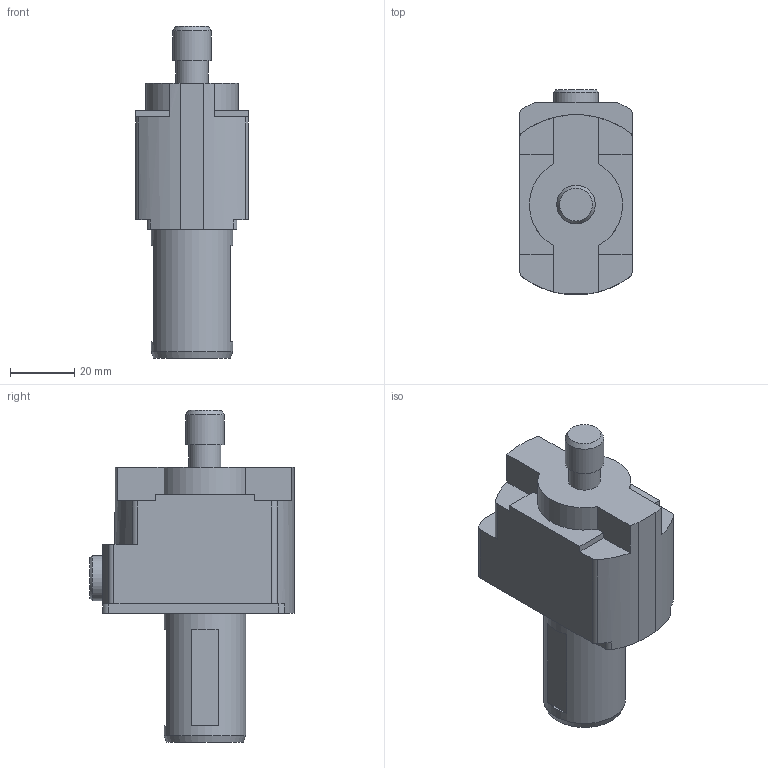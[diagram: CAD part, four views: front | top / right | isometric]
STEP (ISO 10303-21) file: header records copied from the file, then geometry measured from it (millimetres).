
FILE_DESCRIPTION (( 'STEP AP214' ), '1' );
FILE_NAME ('97-000-254 - light.STEP', '2025-06-08T13:41:00', ( 'pc' ), ( '' ), 'SwSTEP 2.0', 'SolidWorks 2024', '' );
FILE_SCHEMA (( 'AUTOMOTIVE_DESIGN' ));
Length unit declared in the file: millimetre
Products named in the file (1): 97-000-254 - light
Bounding box: 35 x 63.5 x 103.3 mm (x, y, z)
Volume: 100458.5 mm3; surface area: 15914.7 mm2
Topology: 1 solids, 1 shells, 68 faces, 170 edges, 112 vertices
Faces by surface type: plane 40, cylinder 23, cone 5
Full cylindrical faces by diameter (mm): 10 x1, 12 x1, 14 x2, 15 x1, 25.4 x1
Entity records: 1963 total; most frequent: DIRECTION 354, CARTESIAN_POINT 329, ORIENTED_EDGE 306, EDGE_CURVE 153, AXIS2_PLACEMENT_3D 132, VERTEX_POINT 107, LINE 90, VECTOR 90
